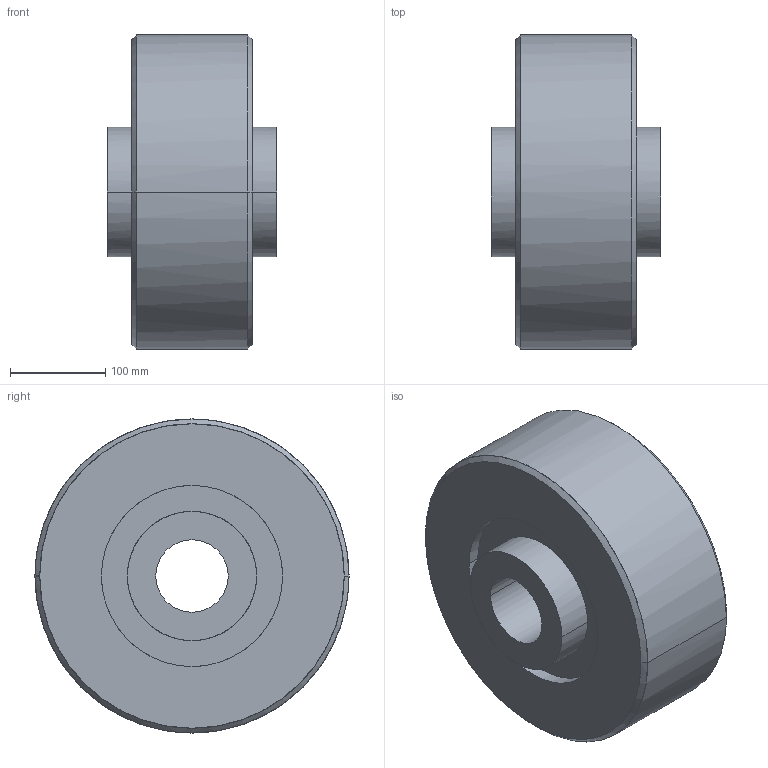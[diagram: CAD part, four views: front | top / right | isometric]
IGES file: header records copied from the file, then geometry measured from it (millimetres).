
Global section: native system: Kubotek KeyCreator; preprocessor: KCM Version 1.1.1442.0; author: KeyCreator User; organization: Self; date: 20170712.055828; units: inch
Bounding box: 177.8 x 330.2 x 330.2 mm (x, y, z)
Surface area: 378094.7 mm2 (no closed solid volume)
Topology: 0 solids, 0 shells, 22 faces, 144 edges, 144 vertices
Faces by surface type: bspline 22
